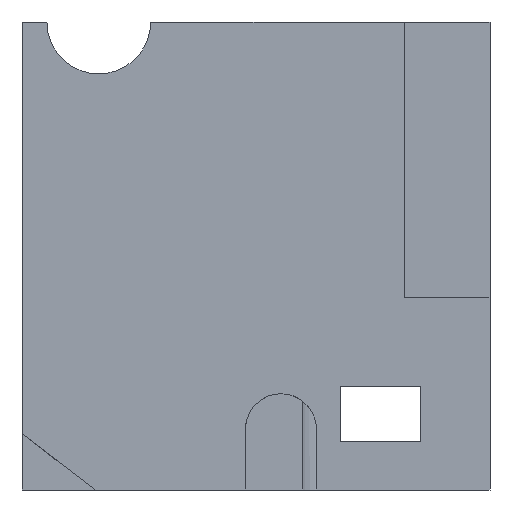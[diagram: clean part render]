
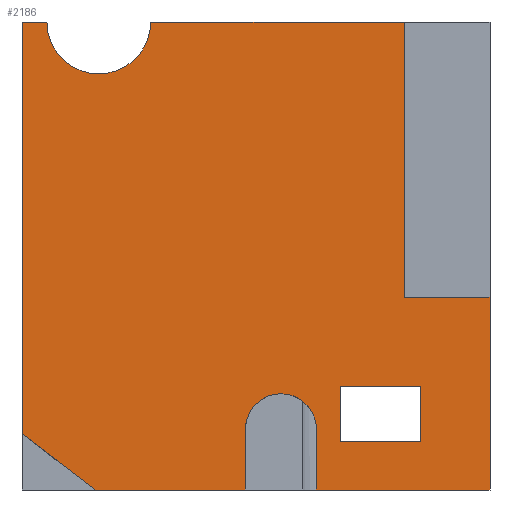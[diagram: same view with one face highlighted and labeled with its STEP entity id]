
A CAD part, left-side view. The second image highlights one B-rep face of the part: STEP entity #2186.
In plain terms, the highlighted planar face has unit normal (-1, 0, 0).
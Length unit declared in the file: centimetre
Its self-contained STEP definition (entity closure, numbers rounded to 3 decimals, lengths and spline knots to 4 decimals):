
#10 = DIRECTION ( 'NONE',  ( 0., 0., -1. ) ) ;
#21 = DIRECTION ( 'NONE',  ( 1., 0., 0. ) ) ;
#22 = VECTOR ( 'NONE', #1094, 100. ) ;
#54 = EDGE_CURVE ( 'NONE', #770, #1678, #1465, .T. ) ;
#69 = LINE ( 'NONE', #831, #2106 ) ;
#73 = CARTESIAN_POINT ( 'NONE',  ( 0., 1000., 1000. ) ) ;
#81 = LINE ( 'NONE', #2017, #22 ) ;
#83 = ORIENTED_EDGE ( 'NONE', *, *, #54, .F. ) ;
#94 = EDGE_CURVE ( 'NONE', #612, #940, #69, .T. ) ;
#100 = CARTESIAN_POINT ( 'NONE',  ( 0., 1000., 0. ) ) ;
#148 = CARTESIAN_POINT ( 'NONE',  ( 0., 1000., 0. ) ) ;
#158 = ORIENTED_EDGE ( 'NONE', *, *, #1892, .F. ) ;
#191 = ORIENTED_EDGE ( 'NONE', *, *, #759, .F. ) ;
#206 = CARTESIAN_POINT ( 'NONE',  ( 0., 1000., 1000. ) ) ;
#227 = DIRECTION ( 'NONE',  ( 0., 0., -1. ) ) ;
#244 = LINE ( 'NONE', #1661, #2476 ) ;
#246 = CARTESIAN_POINT ( 'NONE',  ( 0., 835.9239, 1000. ) ) ;
#250 = PLANE ( 'NONE',  #511 ) ;
#262 = EDGE_CURVE ( 'NONE', #612, #1855, #891, .T. ) ;
#277 = CARTESIAN_POINT ( 'NONE',  ( 0., 370.8086, 129.7574 ) ) ;
#282 = EDGE_CURVE ( 'NONE', #2252, #1556, #1457, .T. ) ;
#295 = VERTEX_POINT ( 'NONE', #1870 ) ;
#320 = DIRECTION ( 'NONE',  ( 0., -1., 0. ) ) ;
#466 = EDGE_CURVE ( 'NONE', #646, #1158, #2107, .T. ) ;
#497 = CARTESIAN_POINT ( 'NONE',  ( 0., 446.732, 129.7574 ) ) ;
#511 = AXIS2_PLACEMENT_3D ( 'NONE', #73, #21, #1792 ) ;
#534 = EDGE_CURVE ( 'NONE', #940, #1072, #631, .T. ) ;
#540 = CARTESIAN_POINT ( 'NONE',  ( 0., 182.6923, 411.7132 ) ) ;
#551 = VECTOR ( 'NONE', #574, 100. ) ;
#574 = DIRECTION ( 'NONE',  ( 0., 0., -1. ) ) ;
#590 = CARTESIAN_POINT ( 'NONE',  ( 0., 446.732, 129.7574 ) ) ;
#612 = VERTEX_POINT ( 'NONE', #1411 ) ;
#621 = ORIENTED_EDGE ( 'NONE', *, *, #2497, .F. ) ;
#622 = ORIENTED_EDGE ( 'NONE', *, *, #1218, .F. ) ;
#631 = CIRCLE ( 'NONE', #2359, 75.9234 ) ;
#646 = VERTEX_POINT ( 'NONE', #1591 ) ;
#657 = ORIENTED_EDGE ( 'NONE', *, *, #1606, .T. ) ;
#659 = DIRECTION ( 'NONE',  ( 0., 0., 1. ) ) ;
#713 = DIRECTION ( 'NONE',  ( 0., -1., 0. ) ) ;
#719 = ORIENTED_EDGE ( 'NONE', *, *, #534, .F. ) ;
#721 = ORIENTED_EDGE ( 'NONE', *, *, #262, .T. ) ;
#759 = EDGE_CURVE ( 'NONE', #2252, #818, #244, .T. ) ;
#770 = VERTEX_POINT ( 'NONE', #914 ) ;
#779 = ORIENTED_EDGE ( 'NONE', *, *, #866, .F. ) ;
#785 = AXIS2_PLACEMENT_3D ( 'NONE', #246, #843, #2342 ) ;
#790 = ORIENTED_EDGE ( 'NONE', *, *, #1551, .F. ) ;
#792 = VECTOR ( 'NONE', #1447, 100. ) ;
#795 = VERTEX_POINT ( 'NONE', #2221 ) ;
#818 = VERTEX_POINT ( 'NONE', #1679 ) ;
#831 = CARTESIAN_POINT ( 'NONE',  ( 0., 370.8086, 0. ) ) ;
#843 = DIRECTION ( 'NONE',  ( -1., 0., 0. ) ) ;
#848 = LINE ( 'NONE', #1754, #1875 ) ;
#866 = EDGE_CURVE ( 'NONE', #1072, #295, #1760, .T. ) ;
#867 = ORIENTED_EDGE ( 'NONE', *, *, #2382, .F. ) ;
#875 = VECTOR ( 'NONE', #659, 100. ) ;
#878 = DIRECTION ( 'NONE',  ( 0., 0., 1. ) ) ;
#891 = LINE ( 'NONE', #100, #1832 ) ;
#903 = LINE ( 'NONE', #148, #1310 ) ;
#907 = CARTESIAN_POINT ( 'NONE',  ( 0., 147.4463, 102.7168 ) ) ;
#914 = CARTESIAN_POINT ( 'NONE',  ( 0., 946.7615, 1000. ) ) ;
#918 = CARTESIAN_POINT ( 'NONE',  ( 0., 320.1137, 102.7168 ) ) ;
#939 = DIRECTION ( 'NONE',  ( 0., 1., 0. ) ) ;
#940 = VERTEX_POINT ( 'NONE', #277 ) ;
#959 = VERTEX_POINT ( 'NONE', #1251 ) ;
#979 = EDGE_CURVE ( 'NONE', #1158, #1656, #1135, .T. ) ;
#983 = ORIENTED_EDGE ( 'NONE', *, *, #979, .F. ) ;
#998 = VECTOR ( 'NONE', #2366, 100. ) ;
#1043 = CARTESIAN_POINT ( 'NONE',  ( 0., 1000., 120.1179 ) ) ;
#1063 = VECTOR ( 'NONE', #939, 100. ) ;
#1072 = VERTEX_POINT ( 'NONE', #1538 ) ;
#1094 = DIRECTION ( 'NONE',  ( 0., -1., 0. ) ) ;
#1112 = VECTOR ( 'NONE', #1508, 100. ) ;
#1135 = LINE ( 'NONE', #1938, #2279 ) ;
#1158 = VERTEX_POINT ( 'NONE', #1602 ) ;
#1212 = ORIENTED_EDGE ( 'NONE', *, *, #94, .F. ) ;
#1215 = FACE_BOUND ( 'NONE', #2380, .T. ) ;
#1218 = EDGE_CURVE ( 'NONE', #1678, #1556, #81, .T. ) ;
#1250 = ORIENTED_EDGE ( 'NONE', *, *, #282, .T. ) ;
#1251 = CARTESIAN_POINT ( 'NONE',  ( 0., 1000., 1000. ) ) ;
#1284 = EDGE_CURVE ( 'NONE', #1442, #646, #1826, .T. ) ;
#1298 = CARTESIAN_POINT ( 'NONE',  ( 0., 147.4463, 102.7168 ) ) ;
#1307 = CARTESIAN_POINT ( 'NONE',  ( 0., 182.6923, 1000. ) ) ;
#1310 = VECTOR ( 'NONE', #1496, 100. ) ;
#1360 = ORIENTED_EDGE ( 'NONE', *, *, #2194, .T. ) ;
#1387 = DIRECTION ( 'NONE',  ( 0., 0., 1. ) ) ;
#1411 = CARTESIAN_POINT ( 'NONE',  ( 0., 370.8086, 0. ) ) ;
#1442 = VERTEX_POINT ( 'NONE', #1780 ) ;
#1447 = DIRECTION ( 'NONE',  ( 0., 0., 1. ) ) ;
#1457 = LINE ( 'NONE', #540, #792 ) ;
#1465 = CIRCLE ( 'NONE', #785, 110.8377 ) ;
#1470 = ORIENTED_EDGE ( 'NONE', *, *, #1950, .F. ) ;
#1485 = DIRECTION ( 'NONE',  ( 0., -1., 0. ) ) ;
#1496 = DIRECTION ( 'NONE',  ( 0., -1., 0. ) ) ;
#1508 = DIRECTION ( 'NONE',  ( 0., 0.793, 0.609 ) ) ;
#1538 = CARTESIAN_POINT ( 'NONE',  ( 0., 446.732, 205.6808 ) ) ;
#1551 = EDGE_CURVE ( 'NONE', #1656, #1442, #2424, .T. ) ;
#1553 = CARTESIAN_POINT ( 'NONE',  ( 0., 522.6554, 129.7574 ) ) ;
#1556 = VERTEX_POINT ( 'NONE', #1307 ) ;
#1582 = LINE ( 'NONE', #206, #998 ) ;
#1591 = CARTESIAN_POINT ( 'NONE',  ( 0., 147.4463, 221.6133 ) ) ;
#1602 = CARTESIAN_POINT ( 'NONE',  ( 0., 320.1137, 221.6133 ) ) ;
#1606 = EDGE_CURVE ( 'NONE', #1843, #795, #903, .T. ) ;
#1641 = CARTESIAN_POINT ( 'NONE',  ( 0., 0., 0. ) ) ;
#1656 = VERTEX_POINT ( 'NONE', #918 ) ;
#1661 = CARTESIAN_POINT ( 'NONE',  ( 0., 0., 411.7132 ) ) ;
#1678 = VERTEX_POINT ( 'NONE', #2414 ) ;
#1679 = CARTESIAN_POINT ( 'NONE',  ( 0., 0., 411.7132 ) ) ;
#1719 = DIRECTION ( 'NONE',  ( 0., 0., 1. ) ) ;
#1751 = ORIENTED_EDGE ( 'NONE', *, *, #466, .F. ) ;
#1754 = CARTESIAN_POINT ( 'NONE',  ( 0., 1000., 1000. ) ) ;
#1760 = CIRCLE ( 'NONE', #2164, 75.9234 ) ;
#1780 = CARTESIAN_POINT ( 'NONE',  ( 0., 147.4463, 102.7168 ) ) ;
#1786 = CARTESIAN_POINT ( 'NONE',  ( 0., 843.4387, 0. ) ) ;
#1792 = DIRECTION ( 'NONE',  ( 0., 0., -1. ) ) ;
#1803 = VERTEX_POINT ( 'NONE', #1043 ) ;
#1826 = LINE ( 'NONE', #907, #875 ) ;
#1832 = VECTOR ( 'NONE', #320, 100. ) ;
#1843 = VERTEX_POINT ( 'NONE', #1786 ) ;
#1855 = VERTEX_POINT ( 'NONE', #1641 ) ;
#1870 = CARTESIAN_POINT ( 'NONE',  ( 0., 522.6554, 129.7574 ) ) ;
#1875 = VECTOR ( 'NONE', #227, 100. ) ;
#1891 = VECTOR ( 'NONE', #1485, 100. ) ;
#1892 = EDGE_CURVE ( 'NONE', #295, #795, #2496, .T. ) ;
#1896 = CARTESIAN_POINT ( 'NONE',  ( 0., 0., 1000. ) ) ;
#1905 = LINE ( 'NONE', #1896, #551 ) ;
#1938 = CARTESIAN_POINT ( 'NONE',  ( 0., 320.1137, 102.7168 ) ) ;
#1950 = EDGE_CURVE ( 'NONE', #818, #1855, #1905, .T. ) ;
#1951 = DIRECTION ( 'NONE',  ( -1., 0., 0. ) ) ;
#1983 = FACE_OUTER_BOUND ( 'NONE', #2392, .T. ) ;
#2017 = CARTESIAN_POINT ( 'NONE',  ( 0., 1000., 1000. ) ) ;
#2106 = VECTOR ( 'NONE', #1387, 100. ) ;
#2107 = LINE ( 'NONE', #2470, #1063 ) ;
#2113 = VECTOR ( 'NONE', #10, 100. ) ;
#2164 = AXIS2_PLACEMENT_3D ( 'NONE', #497, #2232, #878 ) ;
#2186 = ADVANCED_FACE ( 'NONE', ( #1215, #1983 ), #250, .F. ) ;
#2194 = EDGE_CURVE ( 'NONE', #959, #1803, #848, .T. ) ;
#2217 = CARTESIAN_POINT ( 'NONE',  ( 0., 182.6923, 411.7132 ) ) ;
#2221 = CARTESIAN_POINT ( 'NONE',  ( 0., 522.6554, 0. ) ) ;
#2232 = DIRECTION ( 'NONE',  ( -1., 0., 0. ) ) ;
#2252 = VERTEX_POINT ( 'NONE', #2217 ) ;
#2253 = CARTESIAN_POINT ( 'NONE',  ( 0., 843.4387, 0. ) ) ;
#2271 = DIRECTION ( 'NONE',  ( 0., 0., -1. ) ) ;
#2279 = VECTOR ( 'NONE', #2271, 100. ) ;
#2342 = DIRECTION ( 'NONE',  ( 0., 0., 1. ) ) ;
#2359 = AXIS2_PLACEMENT_3D ( 'NONE', #590, #1951, #1719 ) ;
#2366 = DIRECTION ( 'NONE',  ( 0., -1., 0. ) ) ;
#2380 = EDGE_LOOP ( 'NONE', ( #2425, #790, #983, #1751 ) ) ;
#2382 = EDGE_CURVE ( 'NONE', #1843, #1803, #2478, .T. ) ;
#2392 = EDGE_LOOP ( 'NONE', ( #622, #83, #621, #1360, #867, #657, #158, #779, #719, #1212, #721, #1470, #191, #1250 ) ) ;
#2414 = CARTESIAN_POINT ( 'NONE',  ( 0., 725.0862, 1000. ) ) ;
#2424 = LINE ( 'NONE', #1298, #1891 ) ;
#2425 = ORIENTED_EDGE ( 'NONE', *, *, #1284, .F. ) ;
#2470 = CARTESIAN_POINT ( 'NONE',  ( 0., 147.4463, 221.6133 ) ) ;
#2476 = VECTOR ( 'NONE', #713, 100. ) ;
#2478 = LINE ( 'NONE', #2253, #1112 ) ;
#2496 = LINE ( 'NONE', #1553, #2113 ) ;
#2497 = EDGE_CURVE ( 'NONE', #959, #770, #1582, .T. ) ;
